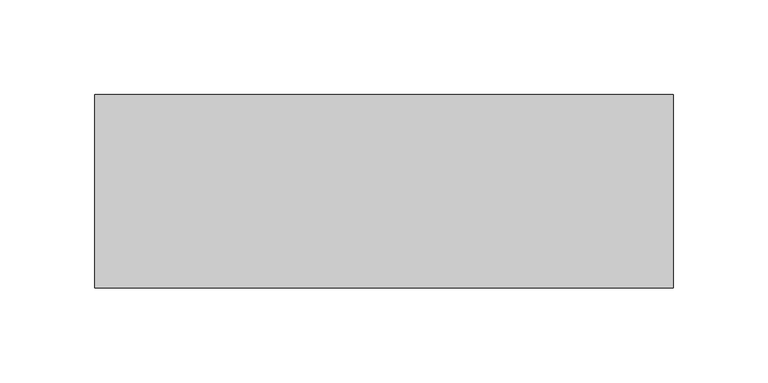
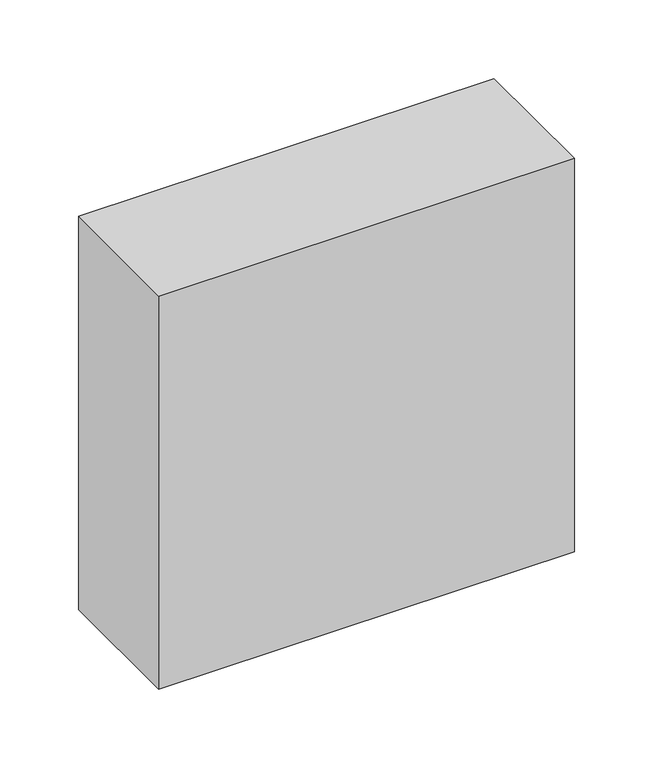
"""IFC4 building model written with IfcOpenShell, lengths in millimetres: proxy geometry, DX_InRow_Control : DX_InRow_Control."""

from ifc_helpers import new_model, si_unit, origin, origin_with_axes, place, context, project, spatial, polyline, outline, extrude, source, transform, mapped, element, save


def electrical_equipment_354cecee(model_context):
    return source(origin(), model_context, "Body", "SweptSolid", [
        extrude(outline(polyline([(277.5, 187.0), (277.5, 85.0), (-27.5, 85.0), (-27.5, 187.0), (277.5, 187.0)])), origin_with_axes(), (0.0, 0.0, 1.0), 305.0),
    ])


if __name__ == "__main__":
    model = new_model("IFC4")
    model_context = context("Model", 3, world=origin())
    ifc_project = project(units=[si_unit("LENGTHUNIT", "METRE", prefix="MILLI")], contexts=[model_context])
    site = spatial("IfcSite", under=ifc_project)
    building = spatial("IfcBuilding", under=site)
    placement = place(None, origin())
    electrical_equipment_shape = electrical_equipment_354cecee(model_context)
    element("IfcBuildingElementProxy", 1, Name="DX_InRow_Control : DX_InRow_Control", ObjectType="DX_InRow_Control : DX_InRow_Control", at=placement, inside=building, context=model_context, shape_type="MappedRepresentation", body=[
        mapped(electrical_equipment_shape, transform((0.0, 0.0, 0.0), x_axis=(1.0, 0.0, 0.0), y_axis=(0.0, 1.0, 0.0), z_axis=(0.0, 0.0, 1.0))),
    ])
    save(model, "model.ifc")
